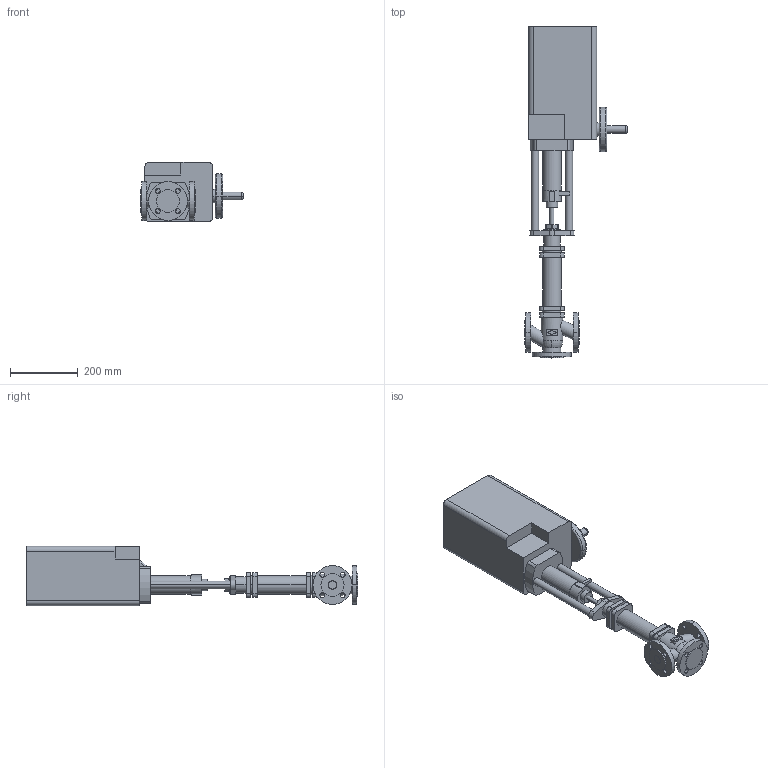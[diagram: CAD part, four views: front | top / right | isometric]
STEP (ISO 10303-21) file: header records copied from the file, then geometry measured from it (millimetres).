
FILE_DESCRIPTION(('OneSpaceDesigner STEP Export'),'2;1');
FILE_NAME('c000002452.stp','2006-09-21T11:51:37',(''),(''),'OneSpace Designer STEP processor for AP214 (Solid Model)','OneSpace Designer 13.20A 18-Aug-2005 (C) CoCreate Software GmbH','');
FILE_SCHEMA(('AUTOMOTIVE_DESIGN { 1 0 10303 214 1 1 1 1 }'));
Length unit declared in the file: millimetre
Products named in the file (2): 1; 2
Bounding box: 301.6 x 977.5 x 175 mm (x, y, z)
Volume: 14293750 mm3; surface area: 618672.6 mm2
Topology: 2 solids, 2 shells, 231 faces, 567 edges, 376 vertices
Faces by surface type: cylinder 114, plane 109, torus 8
Entity records: 6504 total; most frequent: CARTESIAN_POINT 1213, ORIENTED_EDGE 1134, DIRECTION 1021, EDGE_CURVE 567, VERTEX_POINT 376, AXIS2_PLACEMENT_3D 359, VECTOR 303, LINE 303
